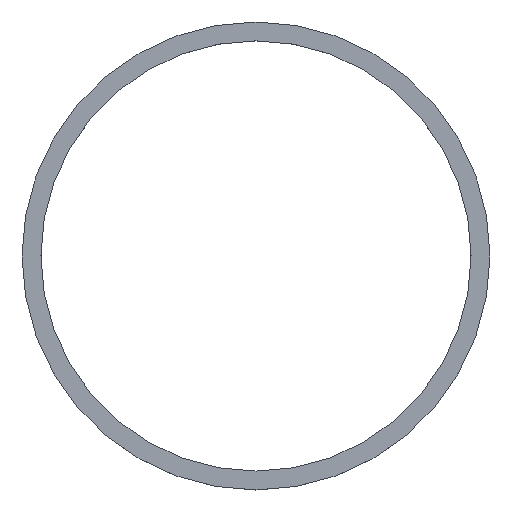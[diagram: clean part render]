
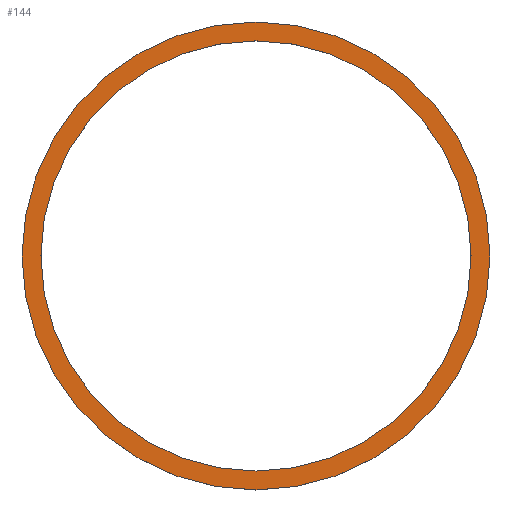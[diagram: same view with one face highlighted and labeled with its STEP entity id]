
A CAD part, top view. The second image highlights one B-rep face of the part: STEP entity #144.
In plain terms, the highlighted planar face has unit normal (0, 0, 1).
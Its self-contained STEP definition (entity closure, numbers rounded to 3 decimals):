
#31 = CYLINDRICAL_SURFACE('',#32,19.8);
#32 = AXIS2_PLACEMENT_3D('',#33,#34,#35);
#33 = CARTESIAN_POINT('',(0.,40.5,8.25));
#34 = DIRECTION('',(-0.,-0.,-1.));
#35 = DIRECTION('',(1.,0.,0.));
#56 = VERTEX_POINT('',#57);
#57 = CARTESIAN_POINT('',(19.8,40.5,9.65));
#78 = EDGE_CURVE('',#56,#56,#79,.T.);
#79 = SURFACE_CURVE('',#80,(#85,#92),.PCURVE_S1.);
#80 = CIRCLE('',#81,19.8);
#81 = AXIS2_PLACEMENT_3D('',#82,#83,#84);
#82 = CARTESIAN_POINT('',(0.,40.5,9.65));
#83 = DIRECTION('',(0.,0.,1.));
#84 = DIRECTION('',(1.,0.,-0.));
#85 = PCURVE('',#31,#86);
#86 = DEFINITIONAL_REPRESENTATION('',(#87),#91);
#87 = LINE('',#88,#89);
#88 = CARTESIAN_POINT('',(6.283,-1.4));
#89 = VECTOR('',#90,1.);
#90 = DIRECTION('',(-1.,0.));
#91 = ( GEOMETRIC_REPRESENTATION_CONTEXT(2) 
PARAMETRIC_REPRESENTATION_CONTEXT() REPRESENTATION_CONTEXT('2D SPACE',''
  ) );
#92 = PCURVE('',#93,#98);
#93 = PLANE('',#94);
#94 = AXIS2_PLACEMENT_3D('',#95,#96,#97);
#95 = CARTESIAN_POINT('',(0.,40.5,9.65));
#96 = DIRECTION('',(0.,0.,1.));
#97 = DIRECTION('',(1.,0.,-0.));
#98 = DEFINITIONAL_REPRESENTATION('',(#99),#103);
#99 = CIRCLE('',#100,19.8);
#100 = AXIS2_PLACEMENT_2D('',#101,#102);
#101 = CARTESIAN_POINT('',(0.,0.));
#102 = DIRECTION('',(1.,0.));
#103 = ( GEOMETRIC_REPRESENTATION_CONTEXT(2) 
PARAMETRIC_REPRESENTATION_CONTEXT() REPRESENTATION_CONTEXT('2D SPACE',''
  ) );
#133 = CYLINDRICAL_SURFACE('',#134,18.2);
#134 = AXIS2_PLACEMENT_3D('',#135,#136,#137);
#135 = CARTESIAN_POINT('',(0.,40.5,8.05));
#136 = DIRECTION('',(-0.,-0.,-1.));
#137 = DIRECTION('',(1.,0.,0.));
#144 = ADVANCED_FACE('',(#145,#148),#93,.T.);
#145 = FACE_BOUND('',#146,.T.);
#146 = EDGE_LOOP('',(#147));
#147 = ORIENTED_EDGE('',*,*,#78,.T.);
#148 = FACE_BOUND('',#149,.T.);
#149 = EDGE_LOOP('',(#150));
#150 = ORIENTED_EDGE('',*,*,#151,.T.);
#151 = EDGE_CURVE('',#152,#152,#154,.T.);
#152 = VERTEX_POINT('',#153);
#153 = CARTESIAN_POINT('',(18.2,40.5,9.65));
#154 = SURFACE_CURVE('',#155,(#160,#171),.PCURVE_S1.);
#155 = CIRCLE('',#156,18.2);
#156 = AXIS2_PLACEMENT_3D('',#157,#158,#159);
#157 = CARTESIAN_POINT('',(0.,40.5,9.65));
#158 = DIRECTION('',(0.,0.,-1.));
#159 = DIRECTION('',(1.,0.,0.));
#160 = PCURVE('',#93,#161);
#161 = DEFINITIONAL_REPRESENTATION('',(#162),#170);
#162 = ( BOUNDED_CURVE() B_SPLINE_CURVE(2,(#163,#164,#165,#166,#167,#168
,#169),.UNSPECIFIED.,.T.,.F.) B_SPLINE_CURVE_WITH_KNOTS((1,2,2,2,2,1),(
    -2.094,0.,2.094,4.189,6.283,
8.378),.UNSPECIFIED.) CURVE() GEOMETRIC_REPRESENTATION_ITEM() 
RATIONAL_B_SPLINE_CURVE((1.,0.5,1.,0.5,1.,0.5,1.)) REPRESENTATION_ITEM(
  '') );
#163 = CARTESIAN_POINT('',(18.2,0.));
#164 = CARTESIAN_POINT('',(18.2,-31.523));
#165 = CARTESIAN_POINT('',(-9.1,-15.762));
#166 = CARTESIAN_POINT('',(-36.4,0.));
#167 = CARTESIAN_POINT('',(-9.1,15.762));
#168 = CARTESIAN_POINT('',(18.2,31.523));
#169 = CARTESIAN_POINT('',(18.2,0.));
#170 = ( GEOMETRIC_REPRESENTATION_CONTEXT(2) 
PARAMETRIC_REPRESENTATION_CONTEXT() REPRESENTATION_CONTEXT('2D SPACE',''
  ) );
#171 = PCURVE('',#133,#172);
#172 = DEFINITIONAL_REPRESENTATION('',(#173),#177);
#173 = LINE('',#174,#175);
#174 = CARTESIAN_POINT('',(0.,-1.6));
#175 = VECTOR('',#176,1.);
#176 = DIRECTION('',(1.,-0.));
#177 = ( GEOMETRIC_REPRESENTATION_CONTEXT(2) 
PARAMETRIC_REPRESENTATION_CONTEXT() REPRESENTATION_CONTEXT('2D SPACE',''
  ) );
